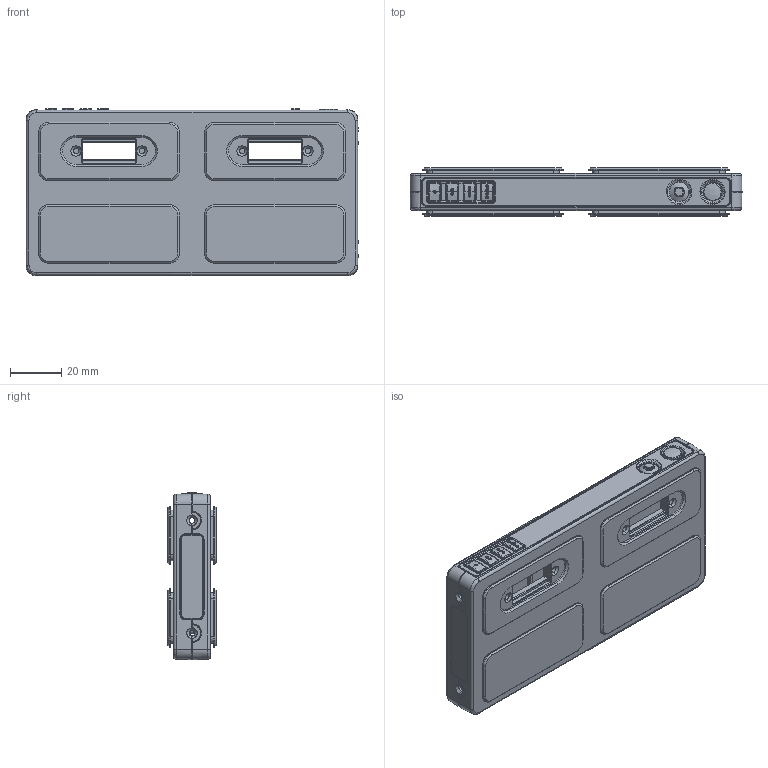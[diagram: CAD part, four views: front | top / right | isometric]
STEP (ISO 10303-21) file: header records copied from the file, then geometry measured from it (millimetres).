
FILE_DESCRIPTION (( 'STEP AP214' ), '1' );
FILE_NAME ('BUG_BASE_C_ASM.STEP', '2008-06-02T22:00:11', ( ' ' ), ( ' ' ), 'SwSTEP 2.0', 'SolidWorks 2007', '' );
FILE_SCHEMA (( 'AUTOMOTIVE_DESIGN' ));
Length unit declared in the file: millimetre
Products named in the file (10): BUG_BASE_UPPER_HOUSING_C; BUG_BASE_LOWER_HOUSING_C; BUG_BASE_C_ASM; BUG_BASE_4WAY_ROCKER_KEYCAP_C; BUG_BASE_4WAY_ROCKER_SELECT_C; BUG_BASE_LOGO_PLATE_C; BUG_ISLANDS_C; BUG_BASE_FACEPLATE_FRONT_C; BUG_BASE_4_BTN_C; BUG_BASE_4_BTN_LIGHT_PIPE_C
Assembly tree (12 placements, depth 2):
  BUG_BASE_C_ASM
    BUG_ISLANDS_C  x4
    BUG_BASE_4_BTN_C
    BUG_BASE_4WAY_ROCKER_KEYCAP_C
    BUG_BASE_UPPER_HOUSING_C
    BUG_BASE_LOWER_HOUSING_C
    BUG_BASE_FACEPLATE_FRONT_C
    BUG_BASE_4WAY_ROCKER_SELECT_C
    BUG_BASE_4_BTN_LIGHT_PIPE_C
    BUG_BASE_LOGO_PLATE_C
Bounding box: 129.54 x 18.8 x 65.34 mm (x, y, z)
Volume: 50316.9 mm3; surface area: 76382.5 mm2
Topology: 19 solids, 19 shells, 3020 faces, 7992 edges, 5068 vertices
Faces by surface type: plane 1618, cone 488, bspline 460, cylinder 450, torus 4
Entity records: 100539 total; most frequent: CARTESIAN_POINT 42101, ORIENTED_EDGE 13532, DIRECTION 9824, EDGE_CURVE 6766, VERTEX_POINT 4360, VECTOR 4160, LINE 4160, AXIS2_PLACEMENT_3D 2832
